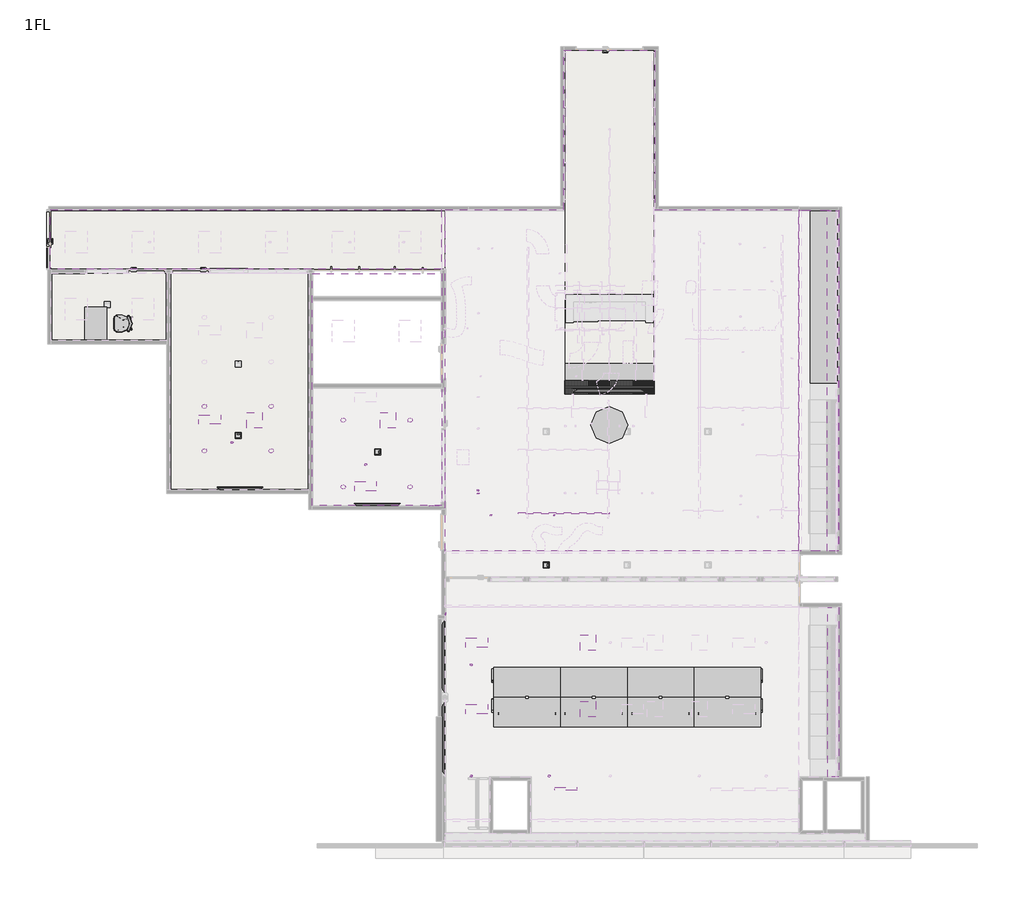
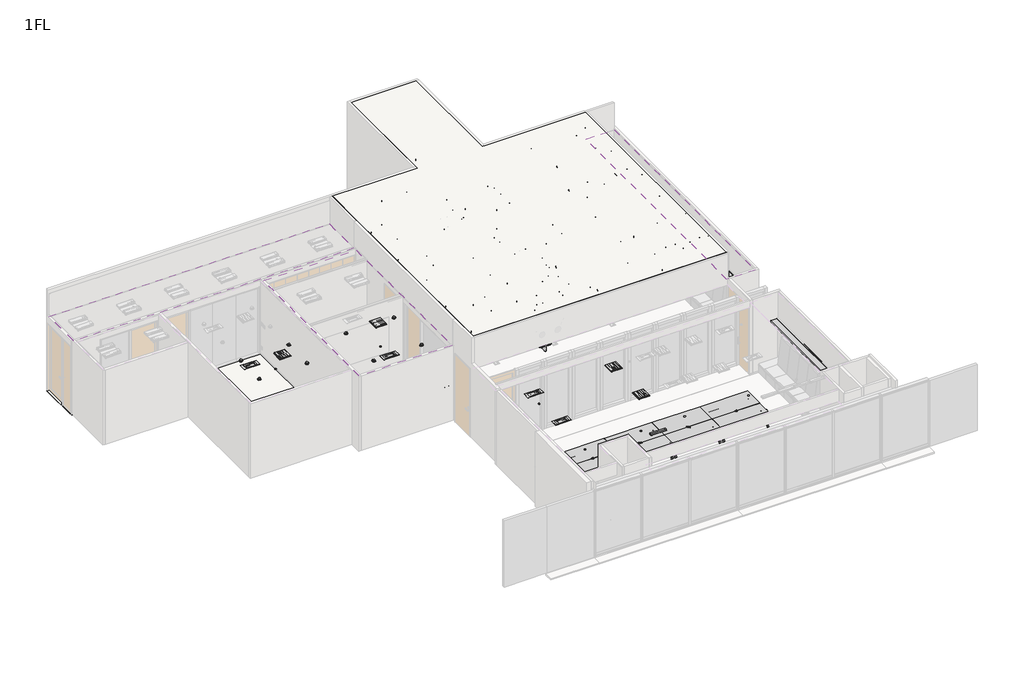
# One storey, part 5 of 13: 16 furniture elements, 9 air terminals, 9 proxies, 8 light fixtures, 7 switching devices, 6 fire suppression terminals, 3 coverings, 3 slabs.
"""IFC4 building model written with IfcOpenShell, lengths in millimetres."""

from ifc_helpers import new_model, si_unit, frame, origin, place, context, project, spatial, polyline, circle_curve, outline, extrude, faceted_brep, transform, mapped, element, save
from ifc_brep_helpers import plane_surface, revolved_surface, advanced_brep
from components import exhaust_grill_exhaust_grill_6b1b1e3d, exhaust_grill_02_exhaust_grill_02_eb34b7bc, exhaust_grill_03_exhaust_grill_03_8e485aa9, mechanical_equipment_c1f41828, duct_hanger_2cfdf465, duct_hanger_026c5575, duct_hanger_d072a3c7, tv_tv_01_4ea46285, tv_tv_02_973a8bbb, sprinkler_01_sprinkler_01_96afb536, sprinkler_02_sprinkler_02_4dfef579, ch_05_meeting_chair_2d90cb94, louver_wall_louver_wall_93ea62c7, millwork_cabinet_millwork_cabinet_28f851ff, reception_desk_reception_desk_96397bd5, shelf_shelf_80fad3a1, shelf_shelf_7b361f3f, ta_07_folding_table_06ad0b25, ta_07_folding_table_5d66a2e4, ta_07_folding_table_425944e8, ta_07_folding_table_b62b0f4c, ta_08_center_table_7fddebb3, ta_11_side_table_e2450a0a, u1_3bccbc15, switching_device_e6d778ff, switching_device_beee7f32, flooringoutlet_flooringoutlet_d7723352, outlet_01_outlet_443ef776

model = new_model("IFC4")

# Units and contexts
model_context = context("Model", 3, world=origin())
ifc_project = project(units=[si_unit("LENGTHUNIT", "METRE", prefix="MILLI")], contexts=[model_context])

# Site, building, storey
site = spatial("IfcSite", under=ifc_project)
building = spatial("IfcBuilding", under=site)
storey = spatial("IfcBuildingStorey", under=building, Name="1FL", Elevation=500.0)

# Air terminals
placement = place(None, origin())
exhaust_grill_exhaust_grill_shape = exhaust_grill_exhaust_grill_6b1b1e3d(model_context)
element("IfcAirTerminal", 1, ObjectType="Exhaust-Grill : Exhaust-Grill", at=placement, inside=storey, context=model_context, shape_type="MappedRepresentation", body=[
    mapped(exhaust_grill_exhaust_grill_shape, transform((15443.0545172, -8395.8098825, -600.0), x_axis=(1.0, 0.0, 0.0), y_axis=(0.0, 1.0, 0.0), z_axis=(0.0, 0.0, 1.0))),
])
element("IfcAirTerminal", 2, ObjectType="Exhaust-Grill : Exhaust-Grill", at=placement, inside=storey, context=model_context, shape_type="MappedRepresentation", body=[
    mapped(exhaust_grill_exhaust_grill_shape, transform((15443.0545172, -6595.809787, -600.0), x_axis=(1.0, 0.0, 0.0), y_axis=(0.0, 1.0, 0.0), z_axis=(0.0, 0.0, 1.0))),
])
element("IfcAirTerminal", 3, ObjectType="Exhaust-Grill : Exhaust-Grill", at=placement, inside=storey, context=model_context, shape_type="MappedRepresentation", body=[
    mapped(exhaust_grill_exhaust_grill_shape, transform((6443.0545172, -595.8078306, -600.0), x_axis=(1.0, 0.0, 0.0), y_axis=(0.0, 1.0, 0.0), z_axis=(0.0, 0.0, 1.0))),
])
element("IfcAirTerminal", 4, ObjectType="Exhaust-Grill : Exhaust-Grill", at=placement, inside=storey, context=model_context, shape_type="MappedRepresentation", body=[
    mapped(exhaust_grill_exhaust_grill_shape, transform((10043.0692877, -595.8078306, -600.0), x_axis=(0.0, 1.0, 0.0), y_axis=(-1.0, 0.0, 0.0), z_axis=(0.0, 0.0, 1.0))),
])
exhaust_grill_02_exhaust_grill_02_shape = exhaust_grill_02_exhaust_grill_02_eb34b7bc(model_context)
element("IfcAirTerminal", 5, ObjectType="Exhaust-Grill_02 : Exhaust-Grill_02", at=placement, inside=storey, context=model_context, shape_type="MappedRepresentation", body=[
    mapped(exhaust_grill_02_exhaust_grill_02_shape, transform((12443.0692579, -8395.8098825, -600.0), x_axis=(1.0, 0.0, 0.0), y_axis=(0.0, 1.0, 0.0), z_axis=(0.0, 0.0, 1.0))),
])
element("IfcAirTerminal", 6, ObjectType="Exhaust-Grill_02 : Exhaust-Grill_02", at=placement, inside=storey, context=model_context, shape_type="MappedRepresentation", body=[
    mapped(exhaust_grill_02_exhaust_grill_02_shape, transform((12443.0692579, -6595.809787, -600.0), x_axis=(1.0, 0.0, 0.0), y_axis=(0.0, 1.0, 0.0), z_axis=(0.0, 0.0, 1.0))),
])
element("IfcAirTerminal", 7, ObjectType="Exhaust-Grill_02 : Exhaust-Grill_02", at=placement, inside=storey, context=model_context, shape_type="MappedRepresentation", body=[
    mapped(exhaust_grill_02_exhaust_grill_02_shape, transform((9443.7363397, -2377.121351, -600.0), x_axis=(0.9999999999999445, -3.331627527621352e-07, 0.0), y_axis=(3.331627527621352e-07, 0.9999999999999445, 0.0), z_axis=(0.0, 0.0, 1.0))),
])
element("IfcAirTerminal", 8, ObjectType="Exhaust-Grill_02 : Exhaust-Grill_02", at=placement, inside=storey, context=model_context, shape_type="MappedRepresentation", body=[
    mapped(exhaust_grill_02_exhaust_grill_02_shape, transform((5243.73695, -576.6208627, -600.0), x_axis=(0.9999999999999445, -3.331627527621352e-07, 0.0), y_axis=(3.331627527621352e-07, 0.9999999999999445, 0.0), z_axis=(0.0, 0.0, 1.0))),
])
exhaust_grill_03_exhaust_grill_03_shape = exhaust_grill_03_exhaust_grill_03_8e485aa9(model_context)
element("IfcAirTerminal", 9, ObjectType="Exhaust-Grill_03 : Exhaust-Grill_03", at=placement, inside=storey, context=model_context, shape_type="MappedRepresentation", body=[
    mapped(exhaust_grill_03_exhaust_grill_03_shape, transform((14843.0675787, -10543.309891, -600.0), x_axis=(1.0, 0.0, 0.0), y_axis=(0.0, 1.0, 0.0), z_axis=(0.0, 0.0, 1.0))),
])

# Proxies
mechanical_equipment_shape = mechanical_equipment_c1f41828(model_context)
element("IfcBuildingElementProxy", 10, Name="Beared-Hanger : BearedHanger", ObjectType="Beared-Hanger : BearedHanger", at=placement, inside=storey, context=model_context, shape_type="MappedRepresentation", body=[
    mapped(mechanical_equipment_shape, transform((14790.2275582, -3102.0608909, 4470.0), x_axis=(1.0, 0.0, 0.0), y_axis=(0.0, 1.0, 0.0), z_axis=(0.0, 0.0, 1.0))),
])
duct_hanger_shape = duct_hanger_2cfdf465(model_context)
element("IfcBuildingElementProxy", 11, Name="Duct-hanger : Φ44", ObjectType="Duct-hanger : Φ44", at=placement, inside=storey, context=model_context, shape_type="MappedRepresentation", body=[
    mapped(duct_hanger_shape, transform((12481.3997384, -2574.8099143, 4470.0), x_axis=(0.0, 1.0, 0.0), y_axis=(-1.0, 0.0, 0.0), z_axis=(0.0, 0.0, 1.0))),
])
duct_hanger_2_shape = duct_hanger_026c5575(model_context)
element("IfcBuildingElementProxy", 12, Name="Duct-hanger : Φ44", ObjectType="Duct-hanger : Φ44", at=placement, inside=storey, context=model_context, shape_type="MappedRepresentation", body=[
    mapped(duct_hanger_2_shape, transform((12827.0705148, -3157.4185569, 4470.0), x_axis=(1.0, 0.0, 0.0), y_axis=(0.0, 1.0, 0.0), z_axis=(0.0, 0.0, 1.0))),
])
duct_hanger_3_shape = duct_hanger_d072a3c7(model_context)
element("IfcBuildingElementProxy", 13, Name="Duct-hanger : Φ44", ObjectType="Duct-hanger : Φ44", at=placement, inside=storey, context=model_context, shape_type="MappedRepresentation", body=[
    mapped(duct_hanger_3_shape, transform((14529.8854562, -3157.4185569, 4470.0), x_axis=(1.0, 0.0, 0.0), y_axis=(0.0, 1.0, 0.0), z_axis=(0.0, 0.0, 1.0))),
])
tv_tv_01_shape = tv_tv_01_4ea46285(model_context)
element("IfcBuildingElementProxy", 14, Name="TV : TV_01", ObjectType="TV : TV_01", at=placement, inside=storey, context=model_context, shape_type="MappedRepresentation", body=[
    mapped(tv_tv_01_shape, transform((11509.5680096, -6969.9920976, 515.0), x_axis=(0.0, 1.0, 0.0), y_axis=(-1.0, 0.0, 0.0), z_axis=(0.0, 0.0, 1.0))),
])
element("IfcBuildingElementProxy", 15, Name="TV : TV_01", ObjectType="TV : TV_01", at=placement, inside=storey, context=model_context, shape_type="MappedRepresentation", body=[
    mapped(tv_tv_01_shape, transform((11509.5680096, -9180.9920976, 515.0), x_axis=(0.0, 1.0, 0.0), y_axis=(-1.0, 0.0, 0.0), z_axis=(0.0, 0.0, 1.0))),
])
element("IfcBuildingElementProxy", 16, Name="TV : TV_01", ObjectType="TV : TV_01", at=placement, inside=storey, context=model_context, shape_type="MappedRepresentation", body=[
    mapped(tv_tv_01_shape, transform((16018.0692785, 224.4264486, 497.5), x_axis=(1.0, 0.0, 0.0), y_axis=(0.0, 1.0, 0.0), z_axis=(0.0, 0.0, 1.0))),
])
tv_tv_02_shape = tv_tv_02_973a8bbb(model_context)
element("IfcBuildingElementProxy", 17, Name="TV : TV_02", ObjectType="TV : TV_02", at=placement, inside=storey, context=model_context, shape_type="MappedRepresentation", body=[
    mapped(tv_tv_02_shape, transform((9760.9955977, -2909.2597031, 800.0), x_axis=(-1.0, 0.0, 0.0), y_axis=(0.0, -1.0, 0.0), z_axis=(0.0, 0.0, 1.0))),
])
element("IfcBuildingElementProxy", 18, Name="TV : TV_02", ObjectType="TV : TV_02", at=placement, inside=storey, context=model_context, shape_type="MappedRepresentation", body=[
    mapped(tv_tv_02_shape, transform((6053.8466448, -2475.4226633, 485.0), x_axis=(-1.0, 0.0, 0.0), y_axis=(0.0, -1.0, 0.0), z_axis=(0.0, 0.0, 1.0))),
])

# Coverings
element("IfcCovering", 19, ObjectType="CF-1", at=placement, inside=storey, context=model_context, shape_type="SweptSolid", body=[
    extrude(outline(polyline([(943.1488246, 3473.4345805), (943.1488246, 5088.1921609), (11487.5892788, 5088.1921609), (11487.5892788, 3473.4345805), (943.1488246, 3473.4345805)]), holes=[polyline([(10935.0702643, 3919.1941988), (10935.0702643, 4489.1921694), (10349.0702643, 4489.1921694), (10349.0702643, 3919.1941988), (10935.0702643, 3919.1941988)]), polyline([(9135.0692877, 3919.1941988), (9135.0692877, 4489.1921694), (8549.0692877, 4489.1921694), (8549.0692877, 3919.1941988), (9135.0692877, 3919.1941988)]), polyline([(1935.9564834, 3919.1941988), (1935.9564834, 4489.1921694), (1349.9564834, 4489.1921694), (1349.9564834, 3919.1941988), (1935.9564834, 3919.1941988)]), polyline([(3735.7792396, 3919.1941988), (3735.7792396, 4489.1921694), (3149.7792396, 4489.1921694), (3149.7792396, 3919.1941988), (3735.7792396, 3919.1941988)]), polyline([(5535.6019957, 3919.1941988), (5535.6019957, 4489.1921694), (4949.6019957, 4489.1921694), (4949.6019957, 3919.1941988), (5535.6019957, 3919.1941988)]), polyline([(7335.4247519, 3919.1941988), (7335.4247519, 4489.1921694), (6749.4247519, 4489.1921694), (6749.4247519, 3919.1941988), (7335.4247519, 3919.1941988)])]), frame((0.0, 0.0, 3400.0), z_axis=(0.0, 0.0, 1.0), x_axis=(1.0, 0.0, 0.0)), (0.0, 0.0, 1.0), 65.0),
])
element("IfcCovering", 20, ObjectType="CF-1", at=placement, inside=storey, context=model_context, shape_type="AdvancedBrep", body=[
    advanced_brep(
    [(11497.0692788, -2899.7797031, 3465.0), (11497.0692788, 3352.9345805, 3465.0), (8009.5680096, 3352.9345805, 3465.0), (8009.5680096, -2899.7797031, 3465.0), (9135.0702643, 2089.1921694, 3465.0), (9135.0702643, 1519.1941988, 3465.0), (8549.0702643, 1519.1941988, 3465.0), (8549.0702643, 2089.1921694, 3465.0), (10935.0702643, 2089.1921694, 3465.0), (10935.0702643, 1519.1941988, 3465.0), (10349.0702643, 1519.1941988, 3465.0), (10349.0702643, 2089.1921694, 3465.0), (11497.0692788, 3352.9345805, 3400.0), (11497.0692788, -2899.7797031, 3400.0), (8009.5680096, -2899.7797031, 3400.0), (8009.5680096, 3352.9345805, 3400.0), (8885.5692877, -2395.8078306, 3400.0), (8800.5692877, -2395.8078306, 3400.0), (8885.5692877, -595.8078306, 3400.0), (8800.5692877, -595.8078306, 3400.0), (10685.5692877, -2395.8078306, 3400.0), (10600.5692877, -2395.8078306, 3400.0), (10685.5692877, -595.8078306, 3400.0), (10600.5692877, -595.8078306, 3400.0), (9846.6032233, -399.3269957, 3400.0), (9846.6032233, -792.2591246, 3400.0), (10239.5353522, -792.2591246, 3400.0), (10239.5353522, -399.3269957, 3400.0), (9653.736334, -2279.6215068, 3400.0), (9233.7364103, -2279.6213668, 3400.0), (9233.7363454, -2474.6214241, 3400.0), (9653.7362691, -2474.621564, 3400.0), (9653.736334, 120.8789815, 3400.0), (9233.7364103, 120.8791214, 3400.0), (9233.7363454, -74.1209358, 3400.0), (9653.7362691, -74.1210757, 3400.0), (9135.0702643, 1519.1941988, 3400.0), (9135.0702643, 2089.1921694, 3400.0), (8549.0702643, 2089.1921694, 3400.0), (8549.0702643, 1519.1941988, 3400.0), (10935.0702643, 1519.1941988, 3400.0), (10935.0702643, 2089.1921694, 3400.0), (10349.0702643, 2089.1921694, 3400.0), (10349.0702643, 1519.1941988, 3400.0), (8800.5692877, -2395.8078306, 3438.1), (8885.5692877, -2395.8078306, 3438.1), (8800.5692877, -595.8078306, 3438.1), (8885.5692877, -595.8078306, 3438.1), (10600.5692877, -2395.8078306, 3438.1), (10685.5692877, -2395.8078306, 3438.1), (10600.5692877, -595.8078306, 3438.1), (10685.5692877, -595.8078306, 3438.1), (9846.6032233, -399.3269957, 3425.0), (9846.6032233, -792.2591246, 3425.0), (10239.5353522, -792.2591246, 3425.0), (10239.5353522, -399.3269957, 3425.0), (9653.736334, -2279.6215068, 3411.000061), (9233.7364103, -2279.6213668, 3411.000061), (9233.7363454, -2474.6214241, 3411.000061), (9653.7362691, -2474.621564, 3411.000061), (9653.736334, 120.8789815, 3411.000061), (9233.7364103, 120.8791214, 3411.000061), (9233.7363454, -74.1209358, 3411.000061), (9653.7362691, -74.1210757, 3411.000061)],
    [
        (0, 1),
        (1, 2),
        (2, 3),
        (3, 0),
        (4, 5),
        (5, 6),
        (6, 7),
        (7, 4),
        (8, 9),
        (9, 10),
        (10, 11),
        (11, 8),
        (12, 13),
        (13, 14),
        (14, 15),
        (15, 12),
        (16, 17, circle_curve(frame((8843.0692877, -2395.8078306, 3400.0), z_axis=(0.0, 0.0, 1.0), x_axis=(1.0, 0.0, 0.0)), 42.5)),
        (17, 16, circle_curve(frame((8843.0692877, -2395.8078306, 3400.0), z_axis=(0.0, 0.0, 1.0), x_axis=(1.0, 0.0, 0.0)), 42.5)),
        (18, 19, circle_curve(frame((8843.0692877, -595.8078306, 3400.0), z_axis=(0.0, 0.0, 1.0), x_axis=(1.0, 0.0, 0.0)), 42.5)),
        (19, 18, circle_curve(frame((8843.0692877, -595.8078306, 3400.0), z_axis=(0.0, 0.0, 1.0), x_axis=(1.0, 0.0, 0.0)), 42.5)),
        (20, 21, circle_curve(frame((10643.0692877, -2395.8078306, 3400.0), z_axis=(0.0, 0.0, 1.0), x_axis=(1.0, 0.0, 0.0)), 42.5)),
        (21, 20, circle_curve(frame((10643.0692877, -2395.8078306, 3400.0), z_axis=(0.0, 0.0, 1.0), x_axis=(1.0, 0.0, 0.0)), 42.5)),
        (22, 23, circle_curve(frame((10643.0692877, -595.8078306, 3400.0), z_axis=(0.0, 0.0, 1.0), x_axis=(1.0, 0.0, 0.0)), 42.5)),
        (23, 22, circle_curve(frame((10643.0692877, -595.8078306, 3400.0), z_axis=(0.0, 0.0, 1.0), x_axis=(1.0, 0.0, 0.0)), 42.5)),
        (24, 25),
        (25, 26),
        (26, 27),
        (27, 24),
        (28, 29),
        (29, 30),
        (30, 31),
        (31, 28),
        (32, 33),
        (33, 34),
        (34, 35),
        (35, 32),
        (36, 37),
        (37, 38),
        (38, 39),
        (39, 36),
        (40, 41),
        (41, 42),
        (42, 43),
        (43, 40),
        (0, 13),
        (12, 1),
        (15, 2),
        (14, 3),
        (44, 45, circle_curve(frame((8843.0692877, -2395.8078306, 3438.1), z_axis=(0.0, 0.0, -1.0), x_axis=(1.0, 0.0, 0.0)), 42.5)),
        (45, 44, circle_curve(frame((8843.0692877, -2395.8078306, 3438.1), z_axis=(0.0, 0.0, -1.0), x_axis=(1.0, 0.0, 0.0)), 42.5)),
        (44, 17),
        (16, 45),
        (46, 47, circle_curve(frame((8843.0692877, -595.8078306, 3438.1), z_axis=(0.0, 0.0, -1.0), x_axis=(1.0, 0.0, 0.0)), 42.5)),
        (47, 46, circle_curve(frame((8843.0692877, -595.8078306, 3438.1), z_axis=(0.0, 0.0, -1.0), x_axis=(1.0, 0.0, 0.0)), 42.5)),
        (46, 19),
        (18, 47),
        (48, 49, circle_curve(frame((10643.0692877, -2395.8078306, 3438.1), z_axis=(0.0, 0.0, -1.0), x_axis=(1.0, 0.0, 0.0)), 42.5)),
        (49, 48, circle_curve(frame((10643.0692877, -2395.8078306, 3438.1), z_axis=(0.0, 0.0, -1.0), x_axis=(1.0, 0.0, 0.0)), 42.5)),
        (48, 21),
        (20, 49),
        (50, 51, circle_curve(frame((10643.0692877, -595.8078306, 3438.1), z_axis=(0.0, 0.0, -1.0), x_axis=(1.0, 0.0, 0.0)), 42.5)),
        (51, 50, circle_curve(frame((10643.0692877, -595.8078306, 3438.1), z_axis=(0.0, 0.0, -1.0), x_axis=(1.0, 0.0, 0.0)), 42.5)),
        (50, 23),
        (22, 51),
        (52, 53),
        (53, 25),
        (24, 52),
        (53, 54),
        (54, 26),
        (54, 55),
        (55, 27),
        (55, 52),
        (56, 57),
        (57, 29),
        (28, 56),
        (57, 58),
        (58, 30),
        (58, 59),
        (59, 31),
        (59, 56),
        (60, 61),
        (61, 33),
        (32, 60),
        (61, 62),
        (62, 34),
        (62, 63),
        (63, 35),
        (63, 60),
        (4, 37),
        (36, 5),
        (6, 39),
        (38, 7),
        (8, 41),
        (40, 9),
        (10, 43),
        (42, 11),
    ],
    [
        plane_surface(frame((11497.0692788, -2964.7797031, 3465.0), z_axis=(0.0, 0.0, 1.0), x_axis=(0.0, 1.0, 0.0))),
        plane_surface(frame((11497.0692788, -2964.7797031, 3400.0), z_axis=(0.0, 0.0, -1.0), x_axis=(0.0, -1.0, 0.0))),
        plane_surface(frame((11497.0692788, -2899.7797031, 3465.0), z_axis=(1.0, 0.0, 0.0), x_axis=(0.0, 0.0, -1.0))),
        plane_surface(frame((11497.0692788, 3352.9345805, 3465.0), z_axis=(0.0, 1.0, 0.0), x_axis=(0.0, 0.0, -1.0))),
        plane_surface(frame((8009.5680096, 3352.9345805, 3465.0), z_axis=(-1.0, 0.0, 0.0), x_axis=(0.0, 0.0, -1.0))),
        plane_surface(frame((8009.5680096, -2899.7797031, 3465.0), z_axis=(0.0, -1.0, 0.0), x_axis=(0.0, 0.0, -1.0))),
        plane_surface(frame((8885.5692877, -2395.8078306, 3438.1), z_axis=(0.0, 0.0, -1.0), x_axis=(0.0, 1.0, 0.0))),
        revolved_surface(polyline([(8885.5692877, -2395.8078306, 3400.0), (8885.5692877, -2395.8078306, 3438.1)]), (8843.0692877, -2395.8078306, 3438.1), (0.0, 0.0, -1.0)),
        plane_surface(frame((8885.5692877, -595.8078306, 3438.1), z_axis=(0.0, 0.0, -1.0), x_axis=(0.0, 1.0, 0.0))),
        revolved_surface(polyline([(8885.5692877, -595.8078306, 3400.0), (8885.5692877, -595.8078306, 3438.1)]), (8843.0692877, -595.8078306, 3438.1), (0.0, 0.0, -1.0)),
        plane_surface(frame((10685.5692877, -2395.8078306, 3438.1), z_axis=(0.0, 0.0, -1.0), x_axis=(0.0, 1.0, 0.0))),
        revolved_surface(polyline([(10685.5692877, -2395.8078306, 3400.0), (10685.5692877, -2395.8078306, 3438.1)]), (10643.0692877, -2395.8078306, 3438.1), (0.0, 0.0, -1.0)),
        plane_surface(frame((10685.5692877, -595.8078306, 3438.1), z_axis=(0.0, 0.0, -1.0), x_axis=(0.0, 1.0, 0.0))),
        revolved_surface(polyline([(10685.5692877, -595.8078306, 3400.0), (10685.5692877, -595.8078306, 3438.1)]), (10643.0692877, -595.8078306, 3438.1), (0.0, 0.0, -1.0)),
        plane_surface(frame((9846.6032233, -399.3269957, 3425.0), z_axis=(1.0, 0.0, 0.0), x_axis=(0.0, 0.0, -1.0))),
        plane_surface(frame((9846.6032233, -792.2591246, 3425.0), z_axis=(0.0, 1.0, 0.0), x_axis=(0.0, 0.0, -1.0))),
        plane_surface(frame((10239.5353522, -792.2591246, 3425.0), z_axis=(-1.0, 0.0, 0.0), x_axis=(0.0, 0.0, -1.0))),
        plane_surface(frame((10239.5353522, -399.3269957, 3425.0), z_axis=(0.0, -1.0, 0.0), x_axis=(0.0, 0.0, -1.0))),
        plane_surface(frame((9846.6032233, -791.5523375, 3425.0), z_axis=(0.0, 0.0, -1.0), x_axis=(0.0, -1.0, 0.0))),
        plane_surface(frame((9653.736334, -2279.6215068, 3411.000061), z_axis=(-3.331627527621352e-07, -0.9999999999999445, 0.0), x_axis=(0.0, 0.0, -1.0))),
        plane_surface(frame((9233.7364103, -2279.6213668, 3411.000061), z_axis=(0.9999999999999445, -3.331627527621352e-07, 0.0), x_axis=(0.0, 0.0, -1.0))),
        plane_surface(frame((9233.7363454, -2474.6214241, 3411.000061), z_axis=(3.331627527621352e-07, 0.9999999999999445, 0.0), x_axis=(0.0, 0.0, -1.0))),
        plane_surface(frame((9653.7362691, -2474.621564, 3411.000061), z_axis=(-0.9999999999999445, 3.331627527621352e-07, 0.0), x_axis=(0.0, 0.0, -1.0))),
        plane_surface(frame((9233.7364103, -2279.6213668, 3411.000061), z_axis=(0.0, 0.0, -1.0), x_axis=(-0.9999999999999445, 3.331627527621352e-07, 0.0))),
        plane_surface(frame((9653.736334, 120.8789815, 3411.000061), z_axis=(-3.331627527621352e-07, -0.9999999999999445, 0.0), x_axis=(0.0, 0.0, -1.0))),
        plane_surface(frame((9233.7364103, 120.8791214, 3411.000061), z_axis=(0.9999999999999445, -3.331627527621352e-07, 0.0), x_axis=(0.0, 0.0, -1.0))),
        plane_surface(frame((9233.7363454, -74.1209358, 3411.000061), z_axis=(3.331627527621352e-07, 0.9999999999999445, 0.0), x_axis=(0.0, 0.0, -1.0))),
        plane_surface(frame((9653.7362691, -74.1210757, 3411.000061), z_axis=(-0.9999999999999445, 3.331627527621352e-07, 0.0), x_axis=(0.0, 0.0, -1.0))),
        plane_surface(frame((9233.7364103, 120.8791214, 3411.000061), z_axis=(0.0, 0.0, -1.0), x_axis=(-0.9999999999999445, 3.331627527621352e-07, 0.0))),
        plane_surface(frame((9135.0702643, 1519.1941988, 3471.0), z_axis=(-1.0, 0.0, 0.0), x_axis=(0.0, -1.0, 0.0))),
        plane_surface(frame((8549.0702643, 1519.1941988, 3471.0), z_axis=(1.0, 0.0, 0.0), x_axis=(0.0, 1.0, 0.0))),
        plane_surface(frame((9135.0702643, 1519.1941988, 3471.0), z_axis=(0.0, 1.0, 0.0), x_axis=(-1.0, 0.0, 0.0))),
        plane_surface(frame((9135.0702643, 2089.1921694, 3400.0), z_axis=(0.0, -1.0, 0.0), x_axis=(-1.0, 0.0, 0.0))),
        plane_surface(frame((10935.0702643, 1519.1941988, 3471.0), z_axis=(-1.0, 0.0, 0.0), x_axis=(0.0, -1.0, 0.0))),
        plane_surface(frame((10349.0702643, 1519.1941988, 3471.0), z_axis=(1.0, 0.0, 0.0), x_axis=(0.0, 1.0, 0.0))),
        plane_surface(frame((10935.0702643, 1519.1941988, 3471.0), z_axis=(0.0, 1.0, 0.0), x_axis=(-1.0, 0.0, 0.0))),
        plane_surface(frame((10935.0702643, 2089.1921694, 3400.0), z_axis=(0.0, -1.0, 0.0), x_axis=(-1.0, 0.0, 0.0))),
    ],
    [
        (0, [[1, 2, 3, 4], [5, 6, 7, 8], [9, 10, 11, 12]]),
        (1, [[13, 14, 15, 16], [17, 18], [19, 20], [21, 22], [23, 24], [25, 26, 27, 28], [29, 30, 31, 32], [33, 34, 35, 36], [37, 38, 39, 40], [41, 42, 43, 44]]),
        (2, [[-1, 45, -13, 46]]),
        (3, [[-2, -46, -16, 47]]),
        (4, [[-3, -47, -15, 48]]),
        (5, [[-4, -48, -14, -45]]),
        (6, [[49, 50]]),
        (7, [[-49, 51, -17, 52]]),
        (7, [[-50, -52, -18, -51]]),
        (8, [[53, 54]]),
        (9, [[-53, 55, -19, 56]]),
        (9, [[-54, -56, -20, -55]]),
        (10, [[57, 58]]),
        (11, [[-57, 59, -21, 60]]),
        (11, [[-58, -60, -22, -59]]),
        (12, [[61, 62]]),
        (13, [[-61, 63, -23, 64]]),
        (13, [[-62, -64, -24, -63]]),
        (14, [[65, 66, -25, 67]]),
        (15, [[-66, 68, 69, -26]]),
        (16, [[-69, 70, 71, -27]]),
        (17, [[-67, -28, -71, 72]]),
        (18, [[-65, -72, -70, -68]]),
        (19, [[73, 74, -29, 75]]),
        (20, [[-74, 76, 77, -30]]),
        (21, [[-77, 78, 79, -31]]),
        (22, [[-75, -32, -79, 80]]),
        (23, [[-73, -80, -78, -76]]),
        (24, [[81, 82, -33, 83]]),
        (25, [[-82, 84, 85, -34]]),
        (26, [[-85, 86, 87, -35]]),
        (27, [[-83, -36, -87, 88]]),
        (28, [[-81, -88, -86, -84]]),
        (29, [[89, -37, 90, -5]]),
        (30, [[91, -39, 92, -7]]),
        (31, [[-90, -40, -91, -6]]),
        (32, [[-89, -8, -92, -38]]),
        (33, [[93, -41, 94, -9]]),
        (34, [[95, -43, 96, -11]]),
        (35, [[-94, -44, -95, -10]]),
        (36, [[-93, -12, -96, -42]]),
    ],
),
])
element("IfcCovering", 21, ObjectType="CF-7", at=placement, inside=storey, context=model_context, shape_type="Brep", body=[
    faceted_brep([(22200.069283, 5071.1921609, 3467.0), (21194.5692788, 5071.1921609, 3467.0), (21127.5692788, 5071.1921609, 3467.0), (21127.5692788, -4129.7797031, 3467.0), (21194.5692788, -4129.7797031, 3467.0), (22200.069283, -4129.7797031, 3467.0), (22200.069283, 5071.1921609, 3400.0), (22200.069283, -4129.7797031, 3400.0), (21127.5692788, -4129.7797031, 3400.0), (21127.5692788, 5071.1921609, 3400.0)], [[[0, 1, 2, 3, 4, 5]], [[6, 7, 8, 9]], [[2, 1, 0, 6, 9]], [[3, 2, 9, 8]], [[5, 4, 3, 8, 7]], [[0, 5, 7, 6]]]),
])

# Fire suppression terminals
sprinkler_01_sprinkler_01_shape = sprinkler_01_sprinkler_01_96afb536(model_context)
element("IfcFireSuppressionTerminal", 22, ObjectType="Sprinkler_01 : Sprinkler_01", at=placement, inside=storey, context=model_context, shape_type="MappedRepresentation", body=[
    mapped(sprinkler_01_sprinkler_01_shape, transform((12481.4517845, -2487.5138314, 3362.3429425), x_axis=(1.0, 0.0, 0.0), y_axis=(0.0, 1.0, 0.0), z_axis=(0.0, 0.0, 1.0))),
])
sprinkler_02_sprinkler_02_shape = sprinkler_02_sprinkler_02_4dfef579(model_context)
element("IfcFireSuppressionTerminal", 23, ObjectType="Sprinkler_02 : Sprinkler_02", at=placement, inside=storey, context=model_context, shape_type="MappedRepresentation", body=[
    mapped(sprinkler_02_sprinkler_02_shape, transform((14391.2361642, -10195.8078306, -600.0), x_axis=(-1.0, 0.0, 0.0), y_axis=(0.0, -1.0, 0.0), z_axis=(0.0, 0.0, 1.0))),
])
element("IfcFireSuppressionTerminal", 24, ObjectType="Sprinkler_02 : Sprinkler_02", at=placement, inside=storey, context=model_context, shape_type="MappedRepresentation", body=[
    mapped(sprinkler_02_sprinkler_02_shape, transform((12293.0692877, -7195.8078306, -600.0), x_axis=(-1.0, 0.0, 0.0), y_axis=(0.0, -1.0, 0.0), z_axis=(0.0, 0.0, 1.0))),
])
element("IfcFireSuppressionTerminal", 25, ObjectType="Sprinkler_02 : Sprinkler_02", at=placement, inside=storey, context=model_context, shape_type="MappedRepresentation", body=[
    mapped(sprinkler_02_sprinkler_02_shape, transform((12291.2361642, -10195.8078306, -600.0), x_axis=(-1.0, 0.0, 0.0), y_axis=(0.0, -1.0, 0.0), z_axis=(0.0, 0.0, 1.0))),
])
element("IfcFireSuppressionTerminal", 26, ObjectType="Sprinkler_02 : Sprinkler_02", at=placement, inside=storey, context=model_context, shape_type="MappedRepresentation", body=[
    mapped(sprinkler_02_sprinkler_02_shape, transform((9443.0692877, -1795.8078306, -600.0), x_axis=(-1.0, 0.0, 0.0), y_axis=(0.0, -1.0, 0.0), z_axis=(0.0, 0.0, 1.0))),
])
element("IfcFireSuppressionTerminal", 27, ObjectType="Sprinkler_02 : Sprinkler_02", at=placement, inside=storey, context=model_context, shape_type="MappedRepresentation", body=[
    mapped(sprinkler_02_sprinkler_02_shape, transform((5843.0692877, -1195.8078306, -600.0), x_axis=(-1.0, 0.0, 0.0), y_axis=(0.0, -1.0, 0.0), z_axis=(0.0, 0.0, 1.0))),
])

# Furniture
ch_05_meeting_chair_shape = ch_05_meeting_chair_2d90cb94(model_context)
element("IfcFurniture", 28, ObjectType="CH-05 : Meeting_Chair", at=placement, inside=storey, context=model_context, shape_type="MappedRepresentation", body=[
    mapped(ch_05_meeting_chair_shape, transform((2656.0938782, 2012.42133, 500.0), x_axis=(0.0, -1.0, 0.0), y_axis=(1.0, 0.0, 0.0), z_axis=(0.0, 0.0, 1.0))),
])
louver_wall_louver_wall_shape = louver_wall_louver_wall_93ea62c7(model_context)
element("IfcFurniture", 29, ObjectType="Louver-Wall : Louver-Wall", at=placement, inside=storey, context=model_context, shape_type="MappedRepresentation", body=[
    mapped(louver_wall_louver_wall_shape, transform((16018.0692785, 114.1921609, 500.0), x_axis=(1.0, 0.0, 0.0), y_axis=(0.0, 1.0, 0.0), z_axis=(0.0, 0.0, 1.0))),
])
millwork_cabinet_millwork_cabinet_shape = millwork_cabinet_millwork_cabinet_28f851ff(model_context)
element("IfcFurniture", 30, ObjectType="Millwork cabinet : Millwork cabinet", at=placement, inside=storey, context=model_context, shape_type="MappedRepresentation", body=[
    mapped(millwork_cabinet_millwork_cabinet_shape, transform((22190.569283, 5106.3924873, 500.0), x_axis=(0.0, -1.0, 0.0), y_axis=(1.0, 0.0, 0.0), z_axis=(0.0, 0.0, 1.0))),
])
reception_desk_reception_desk_shape = reception_desk_reception_desk_96397bd5(model_context)
element("IfcFurniture", 31, ObjectType="Reception Desk : Reception Desk", at=placement, inside=storey, context=model_context, shape_type="MappedRepresentation", body=[
    mapped(reception_desk_reception_desk_shape, transform((16018.0692788, 477.1921609, 500.0), x_axis=(-1.0, 0.0, 0.0), y_axis=(0.0, -1.0, 0.0), z_axis=(0.0, 0.0, 1.0))),
])
shelf_shelf_shape = shelf_shelf_80fad3a1(model_context)
element("IfcFurniture", 32, ObjectType="Shelf : Shelf", at=placement, inside=storey, context=model_context, shape_type="MappedRepresentation", body=[
    mapped(shelf_shelf_shape, transform((22239.819283, -8056.5437704, 500.0), x_axis=(0.0, 1.0, 0.0), y_axis=(-1.0, 0.0, 0.0), z_axis=(0.0, 0.0, 1.0))),
])
shelf_shelf_2_shape = shelf_shelf_7b361f3f(model_context)
element("IfcFurniture", 33, ObjectType="Shelf : Shelf", at=placement, inside=storey, context=model_context, shape_type="MappedRepresentation", body=[
    mapped(shelf_shelf_2_shape, transform((22195.319283, 345.7062289, 500.0), x_axis=(0.0, 1.0, 0.0), y_axis=(-1.0, 0.0, 0.0), z_axis=(0.0, 0.0, 1.0))),
])
ta_07_folding_table_shape = ta_07_folding_table_06ad0b25(model_context)
ta_07_folding_table_2_shape = ta_07_folding_table_5d66a2e4(model_context)
element("IfcFurniture", 34, ObjectType="TA-07 : Folding_Table", at=placement, inside=storey, context=model_context, shape_type="MappedRepresentation", body=[
    mapped(ta_07_folding_table_shape, transform((19194.5692809, -7270.8078391, 500.0), x_axis=(-1.0, 0.0, 0.0), y_axis=(0.0, -1.0, 0.0), z_axis=(0.0, 0.0, 1.0))),
    mapped(ta_07_folding_table_2_shape, transform((19194.5692809, -7270.8078391, 500.0), x_axis=(-1.0, 0.0, 0.0), y_axis=(0.0, -1.0, 0.0), z_axis=(0.0, 0.0, 1.0))),
])
element("IfcFurniture", 35, ObjectType="TA-07 : Folding_Table", at=placement, inside=storey, context=model_context, shape_type="MappedRepresentation", body=[
    mapped(ta_07_folding_table_shape, transform((17394.5692809, -7270.8078391, 500.0), x_axis=(-1.0, 0.0, 0.0), y_axis=(0.0, -1.0, 0.0), z_axis=(0.0, 0.0, 1.0))),
    mapped(ta_07_folding_table_2_shape, transform((17394.5692809, -7270.8078391, 500.0), x_axis=(-1.0, 0.0, 0.0), y_axis=(0.0, -1.0, 0.0), z_axis=(0.0, 0.0, 1.0))),
])
element("IfcFurniture", 36, ObjectType="TA-07 : Folding_Table", at=placement, inside=storey, context=model_context, shape_type="MappedRepresentation", body=[
    mapped(ta_07_folding_table_shape, transform((15594.5692809, -7270.8078391, 500.0), x_axis=(-1.0, 0.0, 0.0), y_axis=(0.0, -1.0, 0.0), z_axis=(0.0, 0.0, 1.0))),
    mapped(ta_07_folding_table_2_shape, transform((15594.5692809, -7270.8078391, 500.0), x_axis=(-1.0, 0.0, 0.0), y_axis=(0.0, -1.0, 0.0), z_axis=(0.0, 0.0, 1.0))),
])
element("IfcFurniture", 37, ObjectType="TA-07 : Folding_Table", at=placement, inside=storey, context=model_context, shape_type="MappedRepresentation", body=[
    mapped(ta_07_folding_table_shape, transform((13794.5692809, -7270.8078391, 500.0), x_axis=(-1.0, 0.0, 0.0), y_axis=(0.0, -1.0, 0.0), z_axis=(0.0, 0.0, 1.0))),
    mapped(ta_07_folding_table_2_shape, transform((13794.5692809, -7270.8078391, 500.0), x_axis=(-1.0, 0.0, 0.0), y_axis=(0.0, -1.0, 0.0), z_axis=(0.0, 0.0, 1.0))),
])
ta_07_folding_table_3_shape = ta_07_folding_table_425944e8(model_context)
ta_07_folding_table_4_shape = ta_07_folding_table_b62b0f4c(model_context)
element("IfcFurniture", 38, ObjectType="TA-07 : Folding_Table", at=placement, inside=storey, context=model_context, shape_type="MappedRepresentation", body=[
    mapped(ta_07_folding_table_3_shape, transform((19194.5692809, -8075.4920976, 500.0), x_axis=(1.0, 0.0, 0.0), y_axis=(0.0, 1.0, 0.0), z_axis=(0.0, 0.0, 1.0))),
    mapped(ta_07_folding_table_4_shape, transform((19194.5692809, -8075.4920976, 500.0), x_axis=(1.0, 0.0, 0.0), y_axis=(0.0, 1.0, 0.0), z_axis=(0.0, 0.0, 1.0))),
])
element("IfcFurniture", 39, ObjectType="TA-07 : Folding_Table", at=placement, inside=storey, context=model_context, shape_type="MappedRepresentation", body=[
    mapped(ta_07_folding_table_3_shape, transform((17394.5692809, -8075.4920976, 500.0), x_axis=(1.0, 0.0, 0.0), y_axis=(0.0, 1.0, 0.0), z_axis=(0.0, 0.0, 1.0))),
    mapped(ta_07_folding_table_4_shape, transform((17394.5692809, -8075.4920976, 500.0), x_axis=(1.0, 0.0, 0.0), y_axis=(0.0, 1.0, 0.0), z_axis=(0.0, 0.0, 1.0))),
])
element("IfcFurniture", 40, ObjectType="TA-07 : Folding_Table", at=placement, inside=storey, context=model_context, shape_type="MappedRepresentation", body=[
    mapped(ta_07_folding_table_3_shape, transform((15594.5692809, -8075.4920976, 500.0), x_axis=(1.0, 0.0, 0.0), y_axis=(0.0, 1.0, 0.0), z_axis=(0.0, 0.0, 1.0))),
    mapped(ta_07_folding_table_4_shape, transform((15594.5692809, -8075.4920976, 500.0), x_axis=(1.0, 0.0, 0.0), y_axis=(0.0, 1.0, 0.0), z_axis=(0.0, 0.0, 1.0))),
])
element("IfcFurniture", 41, ObjectType="TA-07 : Folding_Table", at=placement, inside=storey, context=model_context, shape_type="MappedRepresentation", body=[
    mapped(ta_07_folding_table_3_shape, transform((13794.5692809, -8075.4920976, 500.0), x_axis=(1.0, 0.0, 0.0), y_axis=(0.0, 1.0, 0.0), z_axis=(0.0, 0.0, 1.0))),
    mapped(ta_07_folding_table_4_shape, transform((13794.5692809, -8075.4920976, 500.0), x_axis=(1.0, 0.0, 0.0), y_axis=(0.0, 1.0, 0.0), z_axis=(0.0, 0.0, 1.0))),
])
ta_08_center_table_shape = ta_08_center_table_7fddebb3(model_context)
element("IfcFurniture", 42, ObjectType="TA-08 : Center_Table", at=placement, inside=storey, context=model_context, shape_type="MappedRepresentation", body=[
    mapped(ta_08_center_table_shape, transform((16018.0692788, -725.6254622, 500.0), x_axis=(1.0, 0.0, 0.0), y_axis=(0.0, 1.0, 0.0), z_axis=(0.0, 0.0, 1.0))),
])
ta_11_side_table_shape = ta_11_side_table_e2450a0a(model_context)
element("IfcFurniture", 43, ObjectType="TA-11 : Side_Table", at=placement, inside=storey, context=model_context, shape_type="MappedRepresentation", body=[
    mapped(ta_11_side_table_shape, transform((2168.4769653, 2007.6805185, 500.0), x_axis=(0.0, 1.0, 0.0), y_axis=(-1.0, 0.0, 0.0), z_axis=(0.0, 0.0, 1.0))),
])

# Light fixtures
u1_shape = u1_3bccbc15(model_context)
element("IfcLightFixture", 44, ObjectType="Celing -Light : U1", at=placement, inside=storey, context=model_context, shape_type="MappedRepresentation", body=[
    mapped(u1_shape, transform((5098.4828042, -1423.507174, 3400.0), x_axis=(1.0, 0.0, 0.0), y_axis=(0.0, -1.0, 0.0), z_axis=(0.0, 0.0, -1.0))),
])
element("IfcLightFixture", 45, ObjectType="Celing -Light : U1", at=placement, inside=storey, context=model_context, shape_type="MappedRepresentation", body=[
    mapped(u1_shape, transform((5098.4828042, -223.6216439, 3400.0), x_axis=(1.0, 0.0, 0.0), y_axis=(0.0, -1.0, 0.0), z_axis=(0.0, 0.0, -1.0))),
])
element("IfcLightFixture", 46, ObjectType="Celing -Light : U1", at=placement, inside=storey, context=model_context, shape_type="MappedRepresentation", body=[
    mapped(u1_shape, transform((6898.3018676, -1423.507174, 3400.0), x_axis=(1.0, 0.0, 0.0), y_axis=(0.0, -1.0, 0.0), z_axis=(0.0, 0.0, -1.0))),
])
element("IfcLightFixture", 47, ObjectType="Celing -Light : U1", at=placement, inside=storey, context=model_context, shape_type="MappedRepresentation", body=[
    mapped(u1_shape, transform((6898.3018676, -223.6216439, 3400.0), x_axis=(1.0, 0.0, 0.0), y_axis=(0.0, -1.0, 0.0), z_axis=(0.0, 0.0, -1.0))),
])
element("IfcLightFixture", 48, ObjectType="Celing -Light : U1", at=placement, inside=storey, context=model_context, shape_type="MappedRepresentation", body=[
    mapped(u1_shape, transform((8843.0692877, -2395.8078306, 3400.0), x_axis=(1.0, 0.0, 0.0), y_axis=(0.0, -1.0, 0.0), z_axis=(0.0, 0.0, -1.0))),
])
element("IfcLightFixture", 49, ObjectType="Celing -Light : U1", at=placement, inside=storey, context=model_context, shape_type="MappedRepresentation", body=[
    mapped(u1_shape, transform((8843.0692877, -595.8078306, 3400.0), x_axis=(1.0, 0.0, 0.0), y_axis=(0.0, -1.0, 0.0), z_axis=(0.0, 0.0, -1.0))),
])
element("IfcLightFixture", 50, ObjectType="Celing -Light : U1", at=placement, inside=storey, context=model_context, shape_type="MappedRepresentation", body=[
    mapped(u1_shape, transform((10643.0692877, -2395.8078306, 3400.0), x_axis=(1.0, 0.0, 0.0), y_axis=(0.0, -1.0, 0.0), z_axis=(0.0, 0.0, -1.0))),
])
element("IfcLightFixture", 51, ObjectType="Celing -Light : U1", at=placement, inside=storey, context=model_context, shape_type="MappedRepresentation", body=[
    mapped(u1_shape, transform((10643.0692877, -595.8078306, 3400.0), x_axis=(1.0, 0.0, 0.0), y_axis=(0.0, -1.0, 0.0), z_axis=(0.0, 0.0, -1.0))),
])

# Slabs
element("IfcSlab", 52, ObjectType="FF-4_フローリング", at=placement, inside=storey, context=model_context, shape_type="SweptSolid", body=[
    extrude(outline(polyline([(17228.0692785, 9386.6979481), (17228.0692785, 224.4264486), (14808.0692785, 224.4264486), (14808.0692785, 9386.6979481), (17228.0692785, 9386.6979481)])), frame((0.0, 0.0, 485.0), z_axis=(0.0, 0.0, 1.0), x_axis=(1.0, 0.0, 0.0)), (0.0, 0.0, 1.0), 15.0),
])
element("IfcSlab", 53, ObjectType="FF-2_タイルカーペット", at=placement, inside=storey, context=model_context, shape_type="SweptSolid", body=[
    extrude(outline(polyline([(11598.5692788, 5061.6921609), (11598.5692788, 3463.9345805), (7917.5680096, 3463.9345805), (7917.5680096, -2484.9426633), (4175.8903689, -2484.9426633), (4175.8903689, 1552.9345805), (963.6488246, 1552.9345805), (963.6488246, 3463.9345805), (851.1488246, 3463.9345805), (851.1488246, 5061.6921609), (11598.5692788, 5061.6921609)])), frame((0.0, 0.0, 485.0), z_axis=(0.0, 0.0, 1.0), x_axis=(1.0, 0.0, 0.0)), (0.0, 0.0, 1.0), 15.0),
])
element("IfcSlab", 54, ObjectType="Deck slab", at=placement, inside=storey, context=model_context, shape_type="SweptSolid", body=[
    extrude(outline(polyline([(17246.0692785, 9390.6921609), (17246.0692785, 5079.6921609), (21127.5692788, 5079.6921609), (21127.5692788, -4120.3077133), (11589.0692788, -4120.3077133), (11589.0692788, 5079.6921609), (14790.0692785, 5079.6921609), (14790.0692785, 9390.6921609), (17246.0692785, 9390.6921609)])), frame((0.0, 0.0, 4320.0), z_axis=(0.0, 0.0, 1.0), x_axis=(1.0, 0.0, 0.0)), (0.0, 0.0, 1.0), 150.0),
])

# Switching devices
switching_device_shape = switching_device_e6d778ff(model_context)
element("IfcSwitchingDevice", 55, ObjectType="Light-Swich_02 : Light-Swich", at=placement, inside=storey, context=model_context, shape_type="MappedRepresentation", body=[
    mapped(switching_device_shape, transform((11598.5692788, -5823.3768088, 1824.9993752), x_axis=(0.0, 1.0, 0.0), y_axis=(0.0, 0.0, 1.0), z_axis=(1.0, 0.0, 0.0))),
])
switching_device_2_shape = switching_device_beee7f32(model_context)
element("IfcSwitchingDevice", 56, ObjectType="Light-Swich_01 : Light-Swich", at=placement, inside=storey, context=model_context, shape_type="MappedRepresentation", body=[
    mapped(switching_device_2_shape, transform((11253.0492788, -2919.2939966, 550.0), x_axis=(1.0, 0.0, 0.0), y_axis=(0.0, 1.0, 0.0), z_axis=(0.0, 0.0, 1.0))),
])
element("IfcSwitchingDevice", 57, ObjectType="Light-Swich_01 : Light-Swich", at=placement, inside=storey, context=model_context, shape_type="MappedRepresentation", body=[
    mapped(switching_device_2_shape, transform((11100.2266427, -2919.2939966, 550.0), x_axis=(1.0, 0.0, 0.0), y_axis=(0.0, 1.0, 0.0), z_axis=(0.0, 0.0, 1.0))),
])
flooringoutlet_flooringoutlet_shape = flooringoutlet_flooringoutlet_d7723352(model_context)
element("IfcSwitchingDevice", 58, ObjectType="FlooringOutlet : FlooringOutlet", at=placement, inside=storey, context=model_context, shape_type="MappedRepresentation", body=[
    mapped(flooringoutlet_flooringoutlet_shape, transform((14314.9014657, -4503.4975377, 500.0), x_axis=(-1.1874438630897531e-07, -0.9999999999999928, 0.0), y_axis=(0.9999999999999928, -1.1874438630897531e-07, 0.0), z_axis=(0.0, 0.0, 1.0))),
])
element("IfcSwitchingDevice", 59, ObjectType="FlooringOutlet : FlooringOutlet", at=placement, inside=storey, context=model_context, shape_type="MappedRepresentation", body=[
    mapped(flooringoutlet_flooringoutlet_shape, transform((9767.2153064, -1451.365102, 500.0), x_axis=(-1.1874438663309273e-07, -0.9999999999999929, 0.0), y_axis=(0.9999999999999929, -1.1874438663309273e-07, 0.0), z_axis=(0.0, 0.0, 1.0))),
])
element("IfcSwitchingDevice", 60, ObjectType="FlooringOutlet : FlooringOutlet", at=placement, inside=storey, context=model_context, shape_type="MappedRepresentation", body=[
    mapped(flooringoutlet_flooringoutlet_shape, transform((6006.2178852, -1006.2845356, 500.0), x_axis=(0.9999999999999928, -1.1874436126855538e-07, 0.0), y_axis=(1.1874436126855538e-07, 0.9999999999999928, 0.0), z_axis=(0.0, 0.0, 1.0))),
])
outlet_01_outlet_shape = outlet_01_outlet_443ef776(model_context)
element("IfcSwitchingDevice", 61, ObjectType="Outlet_01 : Outlet", at=placement, inside=storey, context=model_context, shape_type="MappedRepresentation", body=[
    mapped(outlet_01_outlet_shape, transform((11848.5687685, -2909.2797031, 204.77), x_axis=(0.0, 0.0, -1.0), y_axis=(-1.0, 0.0, 0.0), z_axis=(0.0, 1.0, 0.0))),
])

save(model, "model.ifc")
